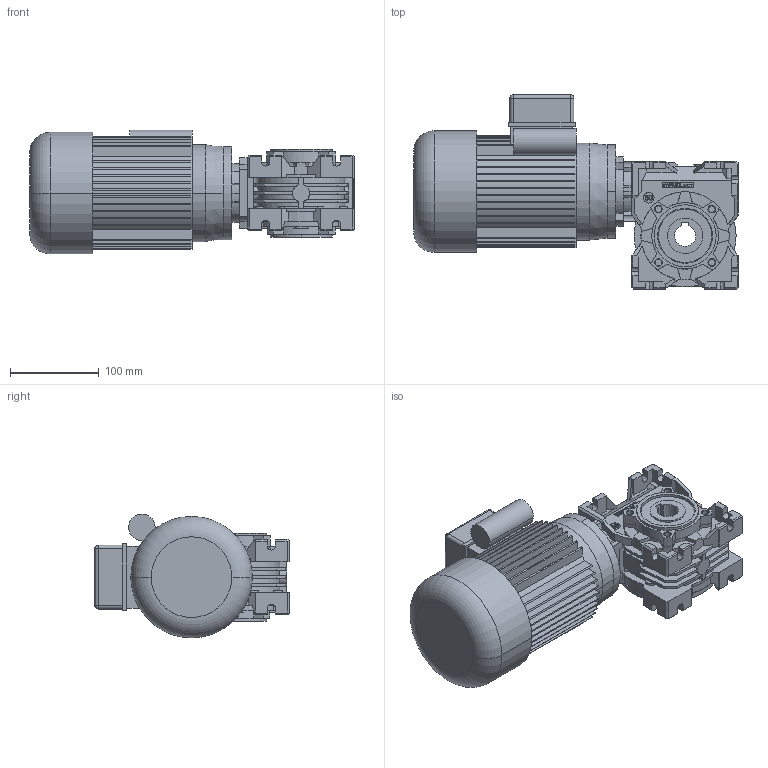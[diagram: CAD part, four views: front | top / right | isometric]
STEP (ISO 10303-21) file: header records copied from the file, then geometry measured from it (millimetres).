
FILE_DESCRIPTION (( 'STEP AP214' ), '1' );
FILE_NAME ('M71B14+RT50.STEP', '2020-04-22T08:54:02', ( '' ), ( '' ), 'SwSTEP 2.0', 'SolidWorks 2018', '' );
FILE_SCHEMA (( 'AUTOMOTIVE_DESIGN' ));
Length unit declared in the file: millimetre
Products named in the file (3): M71B14; M71B14+RT50; RT50-71
Assembly tree (2 placements, depth 2):
  M71B14+RT50
    RT50-71
    M71B14
Bounding box: 366 x 219 x 139.5 mm (x, y, z)
Volume: 3701782.3 mm3; surface area: 412211.8 mm2
Topology: 3 solids, 5 shells, 1253 faces, 3431 edges, 2242 vertices
Faces by surface type: plane 837, cylinder 356, cone 52, torus 4, sphere 4
Entity records: 40927 total; most frequent: CARTESIAN_POINT 8011, ORIENTED_EDGE 6838, DIRECTION 6701, EDGE_CURVE 3419, VECTOR 2459, LINE 2459, VERTEX_POINT 2242, AXIS2_PLACEMENT_3D 2121
